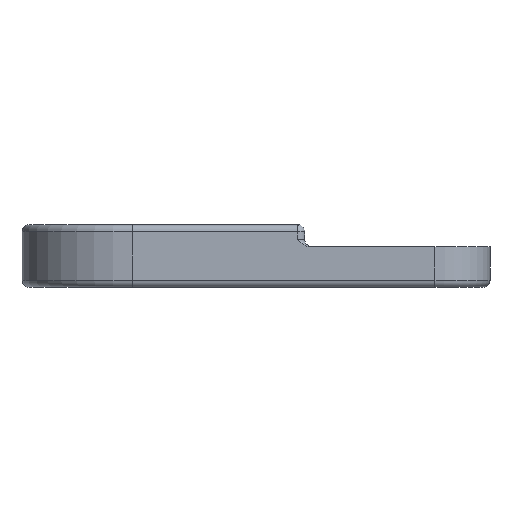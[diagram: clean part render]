
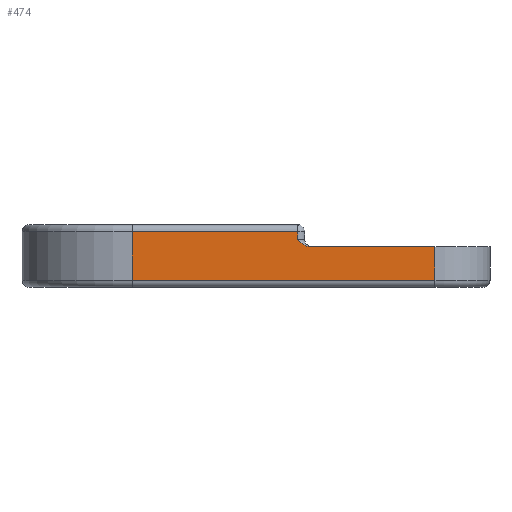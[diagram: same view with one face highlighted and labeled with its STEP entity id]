
A CAD part, left-side view. The second image highlights one B-rep face of the part: STEP entity #474.
In plain terms, the highlighted planar face has unit normal (-1, 0, 0).
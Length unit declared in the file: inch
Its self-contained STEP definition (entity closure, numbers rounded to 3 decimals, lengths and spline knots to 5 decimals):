
#463 = VERTEX_POINT ( 'NONE', #1528 ) ;
#464 = EDGE_CURVE ( 'NONE', #539, #695, #1527, .T. ) ;
#465 = ORIENTED_EDGE ( 'NONE', *, *, #466, .T. ) ;
#466 = EDGE_CURVE ( 'NONE', #536, #463, #1523, .T. ) ;
#474 = ADVANCED_FACE ( 'NONE', ( #1559 ), #1558, .F. ) ;
#496 = EDGE_LOOP ( 'NONE', ( #547, #546, #537, #548, #541, #465, #542 ) ) ;
#531 = EDGE_CURVE ( 'NONE', #463, #544, #1646, .T. ) ;
#536 = VERTEX_POINT ( 'NONE', #1631 ) ;
#537 = ORIENTED_EDGE ( 'NONE', *, *, #464, .T. ) ;
#538 = EDGE_CURVE ( 'NONE', #545, #539, #1630, .T. ) ;
#539 = VERTEX_POINT ( 'NONE', #1688 ) ;
#540 = EDGE_CURVE ( 'NONE', #702, #536, #1687, .T. ) ;
#541 = ORIENTED_EDGE ( 'NONE', *, *, #540, .T. ) ;
#542 = ORIENTED_EDGE ( 'NONE', *, *, #531, .T. ) ;
#543 = EDGE_CURVE ( 'NONE', #544, #545, #1686, .T. ) ;
#544 = VERTEX_POINT ( 'NONE', #1674 ) ;
#545 = VERTEX_POINT ( 'NONE', #1673 ) ;
#546 = ORIENTED_EDGE ( 'NONE', *, *, #538, .T. ) ;
#547 = ORIENTED_EDGE ( 'NONE', *, *, #543, .T. ) ;
#548 = ORIENTED_EDGE ( 'NONE', *, *, #694, .T. ) ;
#694 = EDGE_CURVE ( 'NONE', #695, #702, #1926, .T. ) ;
#695 = VERTEX_POINT ( 'NONE', #1922 ) ;
#702 = VERTEX_POINT ( 'NONE', #1975 ) ;
#1520 = DIRECTION ( 'NONE',  ( 0., 0., 1. ) ) ;
#1521 = VECTOR ( 'NONE', #1520, 39.37008 ) ;
#1522 = CARTESIAN_POINT ( 'NONE',  ( -3.032, -0.18855, 0. ) ) ;
#1523 = LINE ( 'NONE', #1522, #1521 ) ;
#1524 = DIRECTION ( 'NONE',  ( 0., 0., 1. ) ) ;
#1525 = VECTOR ( 'NONE', #1524, 39.37008 ) ;
#1526 = CARTESIAN_POINT ( 'NONE',  ( -3.032, -0.8125, -0.1 ) ) ;
#1527 = LINE ( 'NONE', #1526, #1525 ) ;
#1528 = CARTESIAN_POINT ( 'NONE',  ( -3.032, -0.18855, -0.0325 ) ) ;
#1554 = DIRECTION ( 'NONE',  ( 0., 0., -1. ) ) ;
#1555 = DIRECTION ( 'NONE',  ( 1., 0., 0. ) ) ;
#1556 = CARTESIAN_POINT ( 'NONE',  ( -3.032, 1.0625, -0.285 ) ) ;
#1557 = AXIS2_PLACEMENT_3D ( 'NONE', #1556, #1555, #1554 ) ;
#1558 = PLANE ( 'NONE',  #1557 ) ;
#1559 = FACE_OUTER_BOUND ( 'NONE', #496, .T. ) ;
#1628 = VECTOR ( 'NONE', #1689, 39.37008 ) ;
#1629 = CARTESIAN_POINT ( 'NONE',  ( -3.032, 1.0625, -0.2525 ) ) ;
#1630 = LINE ( 'NONE', #1629, #1628 ) ;
#1631 = CARTESIAN_POINT ( 'NONE',  ( -3.032, -0.18855, -0.0675 ) ) ;
#1643 = DIRECTION ( 'NONE',  ( 0., 1., 0. ) ) ;
#1644 = VECTOR ( 'NONE', #1643, 39.37008 ) ;
#1645 = CARTESIAN_POINT ( 'NONE',  ( -3.032, 0.5625, -0.0325 ) ) ;
#1646 = LINE ( 'NONE', #1645, #1644 ) ;
#1673 = CARTESIAN_POINT ( 'NONE',  ( -3.032, 0.5625, -0.2525 ) ) ;
#1674 = CARTESIAN_POINT ( 'NONE',  ( -3.032, 0.5625, -0.0325 ) ) ;
#1675 = VECTOR ( 'NONE', #1684, 39.37008 ) ;
#1676 = CARTESIAN_POINT ( 'NONE',  ( -3.032, -0.18855, -0.0675 ) ) ;
#1677 = CARTESIAN_POINT ( 'NONE',  ( -3.032, -0.19639, -0.07534 ) ) ;
#1678 = CARTESIAN_POINT ( 'NONE',  ( -3.032, -0.20442, -0.08334 ) ) ;
#1679 = CARTESIAN_POINT ( 'NONE',  ( -3.032, -0.21829, -0.09257 ) ) ;
#1680 = CARTESIAN_POINT ( 'NONE',  ( -3.032, -0.22318, -0.09517 ) ) ;
#1681 = CARTESIAN_POINT ( 'NONE',  ( -3.032, -0.23376, -0.09893 ) ) ;
#1682 = CARTESIAN_POINT ( 'NONE',  ( -3.032, -0.23921, -0.1 ) ) ;
#1683 = CARTESIAN_POINT ( 'NONE',  ( -3.032, -0.24484, -0.1 ) ) ;
#1684 = DIRECTION ( 'NONE',  ( 0., 0., -1. ) ) ;
#1685 = CARTESIAN_POINT ( 'NONE',  ( -3.032, 0.5625, -0.285 ) ) ;
#1686 = LINE ( 'NONE', #1685, #1675 ) ;
#1687 = B_SPLINE_CURVE_WITH_KNOTS ( 'NONE', 3,
 ( #1683, #1682, #1681, #1680, #1679, #1678, #1677, #1676 ),
 .UNSPECIFIED., .F., .F.,
 ( 4, 2, 2, 4 ),
 ( 0., 0.00042, 0.00085, 0.00169 ),
 .UNSPECIFIED. ) ;
#1688 = CARTESIAN_POINT ( 'NONE',  ( -3.032, -0.8125, -0.2525 ) ) ;
#1689 = DIRECTION ( 'NONE',  ( 0., -1., 0. ) ) ;
#1922 = CARTESIAN_POINT ( 'NONE',  ( -3.032, -0.8125, -0.1 ) ) ;
#1923 = DIRECTION ( 'NONE',  ( 0., 1., 0. ) ) ;
#1924 = VECTOR ( 'NONE', #1923, 39.37008 ) ;
#1925 = CARTESIAN_POINT ( 'NONE',  ( -3.032, -0.4435, -0.1 ) ) ;
#1926 = LINE ( 'NONE', #1925, #1924 ) ;
#1975 = CARTESIAN_POINT ( 'NONE',  ( -3.032, -0.24484, -0.1 ) ) ;
